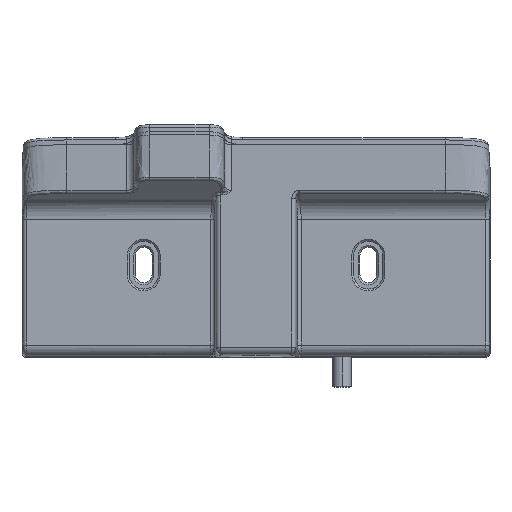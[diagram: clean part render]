
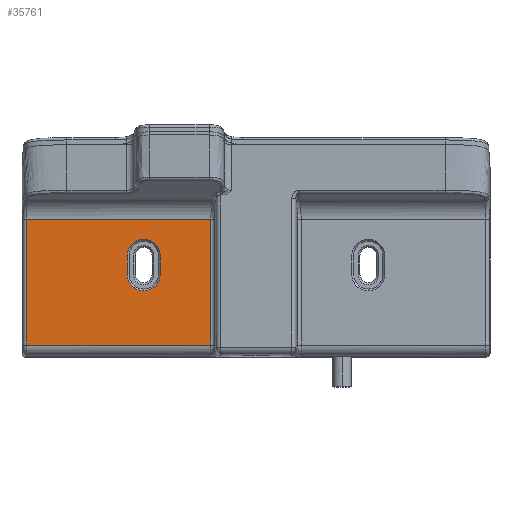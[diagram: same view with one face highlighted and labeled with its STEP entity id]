
A CAD part, front view. The second image highlights one B-rep face of the part: STEP entity #35761.
In plain terms, the highlighted planar face has unit normal (0, -1, -0.003).
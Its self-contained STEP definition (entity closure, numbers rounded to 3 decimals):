
#524 = AXIS2_PLACEMENT_3D ( 'NONE', #18869, #2365, #21623 ) ;
#567 = DIRECTION ( 'NONE',  ( 0., 1., 0.003 ) ) ;
#869 = CARTESIAN_POINT ( 'NONE',  ( -32.081, 5.954, -22.357 ) ) ;
#1352 = ORIENTED_EDGE ( 'NONE', *, *, #34089, .T. ) ;
#1433 = CIRCLE ( 'NONE', #31594, 4.4 ) ;
#1981 = CARTESIAN_POINT ( 'NONE',  ( -27.681, 5.978, -31.757 ) ) ;
#2365 = DIRECTION ( 'NONE',  ( 0., 1., 0.003 ) ) ;
#2690 = EDGE_CURVE ( 'NONE', #27535, #12345, #1433, .T. ) ;
#2726 = VECTOR ( 'NONE', #10565, 1000. ) ;
#3150 = VECTOR ( 'NONE', #5073, 1000. ) ;
#3388 = CARTESIAN_POINT ( 'NONE',  ( -9.709, 6.015, -46.196 ) ) ;
#4585 = CARTESIAN_POINT ( 'NONE',  ( -9.709, 5.928, -12.556 ) ) ;
#5073 = DIRECTION ( 'NONE',  ( 0., -0.003, 1. ) ) ;
#6000 = LINE ( 'NONE', #21384, #34504 ) ;
#6183 = PLANE ( 'NONE',  #28242 ) ;
#6495 = VERTEX_POINT ( 'NONE', #12602 ) ;
#7233 = EDGE_LOOP ( 'NONE', ( #31379, #16647, #1352, #13787 ) ) ;
#8462 = CARTESIAN_POINT ( 'NONE',  ( -32.081, 5.967, -27.357 ) ) ;
#8829 = CARTESIAN_POINT ( 'NONE',  ( -23.281, 5.954, -22.357 ) ) ;
#8969 = DIRECTION ( 'NONE',  ( 0., -0.003, 1. ) ) ;
#9172 = CARTESIAN_POINT ( 'NONE',  ( -72.681, 6.015, -46.196 ) ) ;
#9617 = FACE_BOUND ( 'NONE', #19323, .T. ) ;
#10565 = DIRECTION ( 'NONE',  ( 0., 0.003, -1. ) ) ;
#10621 = ORIENTED_EDGE ( 'NONE', *, *, #20978, .T. ) ;
#10627 = EDGE_CURVE ( 'NONE', #21271, #26035, #6000, .T. ) ;
#10685 = CARTESIAN_POINT ( 'NONE',  ( -59.901, 5.928, -12.556 ) ) ;
#12345 = VERTEX_POINT ( 'NONE', #8462 ) ;
#12463 = CARTESIAN_POINT ( 'NONE',  ( -58.935, 6.015, -46.196 ) ) ;
#12602 = CARTESIAN_POINT ( 'NONE',  ( -23.281, 5.967, -27.357 ) ) ;
#12891 = CARTESIAN_POINT ( 'NONE',  ( -27.681, 5.967, -27.357 ) ) ;
#13106 = VECTOR ( 'NONE', #13441, 1000. ) ;
#13398 = VERTEX_POINT ( 'NONE', #8829 ) ;
#13441 = DIRECTION ( 'NONE',  ( -1., 0., 0. ) ) ;
#13787 = ORIENTED_EDGE ( 'NONE', *, *, #21885, .T. ) ;
#13904 = VECTOR ( 'NONE', #34531, 1000. ) ;
#14028 = VERTEX_POINT ( 'NONE', #28334 ) ;
#15673 = DIRECTION ( 'NONE',  ( 0., -0.003, 1. ) ) ;
#16179 = EDGE_CURVE ( 'NONE', #14028, #21271, #29166, .T. ) ;
#16537 = LINE ( 'NONE', #27065, #2726 ) ;
#16647 = ORIENTED_EDGE ( 'NONE', *, *, #10627, .T. ) ;
#17084 = CARTESIAN_POINT ( 'NONE',  ( -27.681, 5.967, -27.357 ) ) ;
#18869 = CARTESIAN_POINT ( 'NONE',  ( -27.681, 5.954, -22.357 ) ) ;
#19323 = EDGE_LOOP ( 'NONE', ( #33551, #29687, #28223, #10621, #24971 ) ) ;
#19836 = DIRECTION ( 'NONE',  ( 0., -0.003, 1. ) ) ;
#20248 = EDGE_CURVE ( 'NONE', #13398, #6495, #16537, .T. ) ;
#20978 = EDGE_CURVE ( 'NONE', #12345, #35182, #26882, .T. ) ;
#21224 = VERTEX_POINT ( 'NONE', #22527 ) ;
#21271 = VERTEX_POINT ( 'NONE', #3388 ) ;
#21384 = CARTESIAN_POINT ( 'NONE',  ( -9.709, 5.928, -12.556 ) ) ;
#21623 = DIRECTION ( 'NONE',  ( 0., -0.003, 1. ) ) ;
#21800 = VECTOR ( 'NONE', #34020, 1000. ) ;
#21885 = EDGE_CURVE ( 'NONE', #21224, #14028, #28583, .T. ) ;
#22527 = CARTESIAN_POINT ( 'NONE',  ( -58.935, 5.928, -12.556 ) ) ;
#22537 = EDGE_CURVE ( 'NONE', #6495, #27535, #35449, .T. ) ;
#24360 = CARTESIAN_POINT ( 'NONE',  ( -32.081, 5.919, -8.733 ) ) ;
#24971 = ORIENTED_EDGE ( 'NONE', *, *, #35532, .T. ) ;
#25466 = DIRECTION ( 'NONE',  ( 0., 1., 0.003 ) ) ;
#26035 = VERTEX_POINT ( 'NONE', #4585 ) ;
#26870 = CIRCLE ( 'NONE', #524, 4.4 ) ;
#26882 = LINE ( 'NONE', #24360, #3150 ) ;
#27065 = CARTESIAN_POINT ( 'NONE',  ( -23.281, 5.919, -8.733 ) ) ;
#27535 = VERTEX_POINT ( 'NONE', #1981 ) ;
#28138 = CARTESIAN_POINT ( 'NONE',  ( -72.681, 5.919, -8.733 ) ) ;
#28223 = ORIENTED_EDGE ( 'NONE', *, *, #2690, .T. ) ;
#28242 = AXIS2_PLACEMENT_3D ( 'NONE', #28138, #25466, #8969 ) ;
#28334 = CARTESIAN_POINT ( 'NONE',  ( -58.935, 6.015, -46.196 ) ) ;
#28583 = LINE ( 'NONE', #12463, #13904 ) ;
#28652 = LINE ( 'NONE', #10685, #13106 ) ;
#29166 = LINE ( 'NONE', #9172, #21800 ) ;
#29687 = ORIENTED_EDGE ( 'NONE', *, *, #22537, .T. ) ;
#30256 = AXIS2_PLACEMENT_3D ( 'NONE', #17084, #567, #19836 ) ;
#30735 = FACE_OUTER_BOUND ( 'NONE', #7233, .T. ) ;
#31379 = ORIENTED_EDGE ( 'NONE', *, *, #16179, .T. ) ;
#31594 = AXIS2_PLACEMENT_3D ( 'NONE', #12891, #32178, #15673 ) ;
#32178 = DIRECTION ( 'NONE',  ( 0., 1., 0.003 ) ) ;
#33551 = ORIENTED_EDGE ( 'NONE', *, *, #20248, .T. ) ;
#34020 = DIRECTION ( 'NONE',  ( 1., 0., 0. ) ) ;
#34089 = EDGE_CURVE ( 'NONE', #26035, #21224, #28652, .T. ) ;
#34504 = VECTOR ( 'NONE', #35141, 1000. ) ;
#34531 = DIRECTION ( 'NONE',  ( 0., 0.003, -1. ) ) ;
#35141 = DIRECTION ( 'NONE',  ( 0., -0.003, 1. ) ) ;
#35182 = VERTEX_POINT ( 'NONE', #869 ) ;
#35449 = CIRCLE ( 'NONE', #30256, 4.4 ) ;
#35532 = EDGE_CURVE ( 'NONE', #35182, #13398, #26870, .T. ) ;
#35761 = ADVANCED_FACE ( 'NONE', ( #9617, #30735 ), #6183, .F. ) ;
